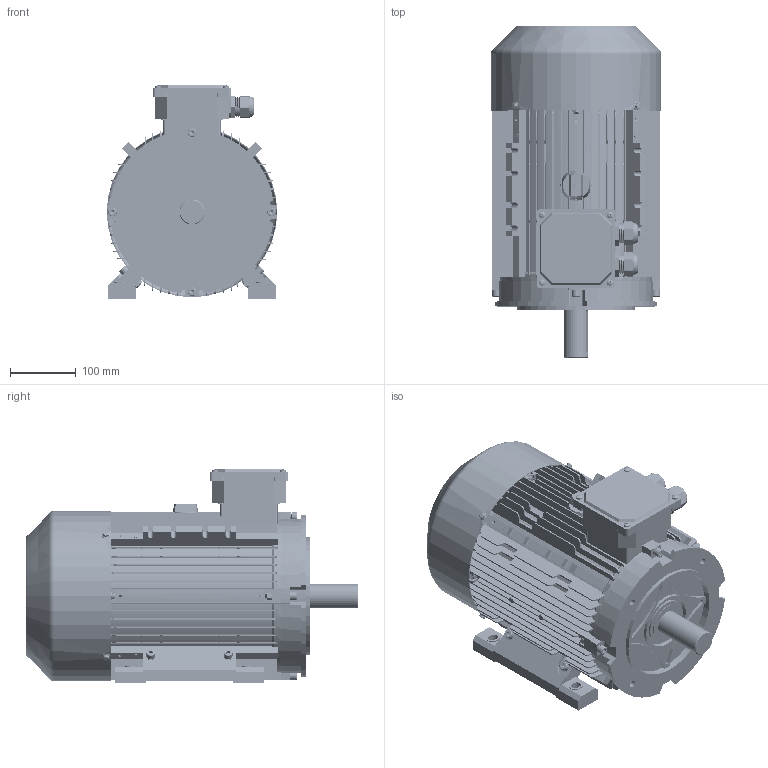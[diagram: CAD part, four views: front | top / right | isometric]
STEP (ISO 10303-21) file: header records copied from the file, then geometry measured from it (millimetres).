
FILE_DESCRIPTION (( 'STEP AP203' ), '1' );
FILE_NAME ('ME3-132M B34B 3D.STEP', '2024-07-27T02:09:31', ( 'User' ), ( 'China' ), 'SwSTEP 2.0', 'SolidWorks 2018', '' );
FILE_SCHEMA (( 'CONFIG_CONTROL_DESIGN' ));
Length unit declared in the file: millimetre
Products named in the file (19): cross recessed pan head screws gb_GB_CROSS_SCREWS_TYPE1 M5X6-6  H type-S; M24 蹟杶; 40X58X7蚐猾; M24 蹟杶簸; ME3-132 B14B傷裔; hexagon socket head cap screws gb_GB_FASTENER_SCREWS_HSHCS M8X30-S; ME3-132M儂褲; spring lock washers--normal type gb_GB_FASTENER_WASHER_SW 8; hexagon socket head cap screws gb_GB_FASTENER_SCREWS_HSHCS M8X40-S; ME3-132M菁褐; ME3-132M B34B  3D; hex nuts-style normal-grades ab gb_GB_HEXAGON_TYPE10 M8X1-S; ME3-132 B3傷裔; ME3-132瑞欶; deep groove ball bearings gb_Rolling bearings 6308 GB 276-94; hex flange bolts-heavy grade b gb_GB_FASTENER_BOLT_HFBB M5X10-S; ME3-132M蛌粣; MS112-132諉盄碟裔; MS112-132 諉盄碟釱
Assembly tree (51 placements, depth 2):
  ME3-132M B34B  3D
    ME3-132M儂褲
    ME3-132M菁褐  x2
    ME3-132 B3傷裔
    deep groove ball bearings gb_Rolling bearings 6308 GB 276-94  x2
    ME3-132M蛌粣
    MS112-132 諉盄碟釱
    M24 蹟杶  x2
    M24 蹟杶簸  x2
    hexagon socket head cap screws gb_GB_FASTENER_SCREWS_HSHCS M8X30-S  x5
    hexagon socket head cap screws gb_GB_FASTENER_SCREWS_HSHCS M8X40-S  x7
    hex nuts-style normal-grades ab gb_GB_HEXAGON_TYPE10 M8X1-S  x11
    ME3-132瑞欶
    hex flange bolts-heavy grade b gb_GB_FASTENER_BOLT_HFBB M5X10-S  x4
    MS112-132諉盄碟裔
    cross recessed pan head screws gb_GB_CROSS_SCREWS_TYPE1 M5X6-6  H type-S  x4
    40X58X7蚐猾
    ME3-132 B14B傷裔
    spring lock washers--normal type gb_GB_FASTENER_WASHER_SW 8  x4
Bounding box: 259.6 x 505.15 x 325 mm (x, y, z)
Volume: 3979391.6 mm3; surface area: 1946416.2 mm2
Topology: 53 solids, 54 shells, 7952 faces, 19456 edges, 11602 vertices
Faces by surface type: cone 2845, plane 2489, cylinder 2272, torus 232, sphere 68, bspline 46
Entity records: 138436 total; most frequent: CARTESIAN_POINT 34871, ORIENTED_EDGE 21632, DIRECTION 20266, EDGE_CURVE 10816, VERTEX_POINT 6924, VECTOR 6786, LINE 6786, AXIS2_PLACEMENT_3D 6740
